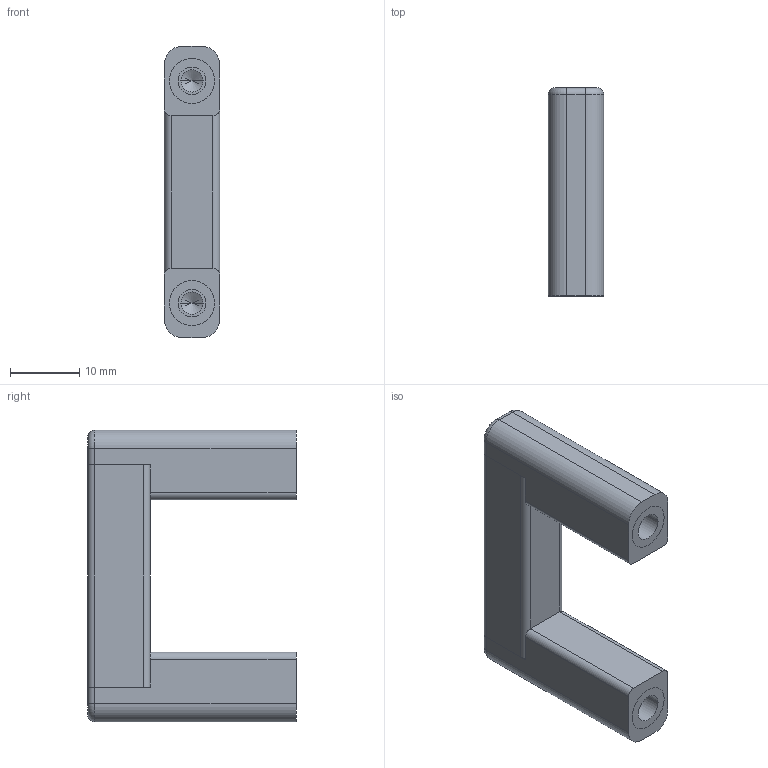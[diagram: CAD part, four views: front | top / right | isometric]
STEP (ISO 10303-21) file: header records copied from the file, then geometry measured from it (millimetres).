
FILE_DESCRIPTION (( 'STEP AP203' ), '1' );
FILE_NAME ('79350.W0032-1.step', '2018-04-28T14:52:25', ( '' ), ( '' ), 'SwSTEP 2.0', 'SolidWorks 2017', '' );
FILE_SCHEMA (( 'CONFIG_CONTROL_DESIGN' ));
Length unit declared in the file: millimetre
Products named in the file (3): Part3_79350.W0032-1; Part1; 79350.W0032-1
Assembly tree (3 placements, depth 2):
  79350.W0032-1
    Part3_79350.W0032-1
    Part1  x2
Bounding box: 8 x 30 x 42 mm (x, y, z)
Volume: 5787.2 mm3; surface area: 5383.9 mm2
Topology: 5 solids, 5 shells, 110 faces, 266 edges, 162 vertices
Faces by surface type: cylinder 46, plane 40, cone 12, torus 12
Entity records: 2190 total; most frequent: DIRECTION 355, CARTESIAN_POINT 318, ORIENTED_EDGE 302, EDGE_CURVE 151, AXIS2_PLACEMENT_3D 134, VERTEX_POINT 97, VECTOR 87, LINE 87
